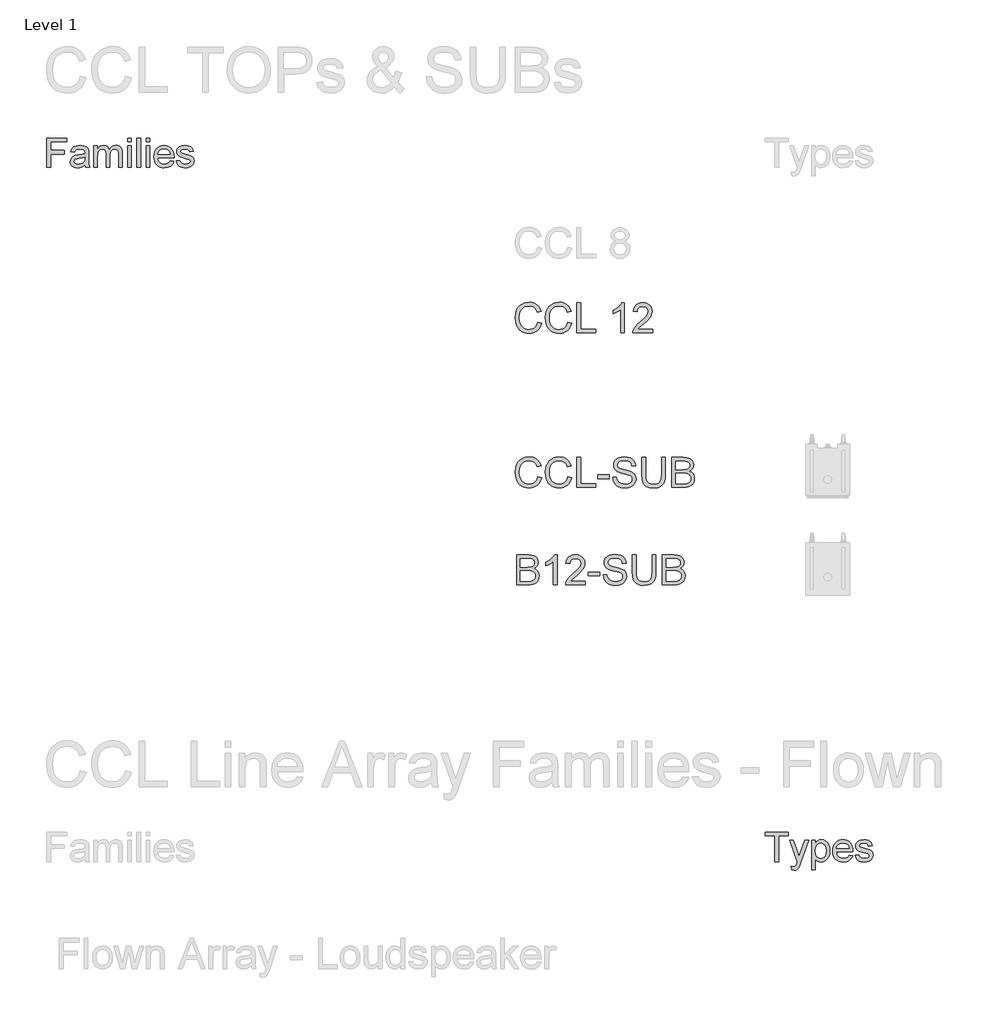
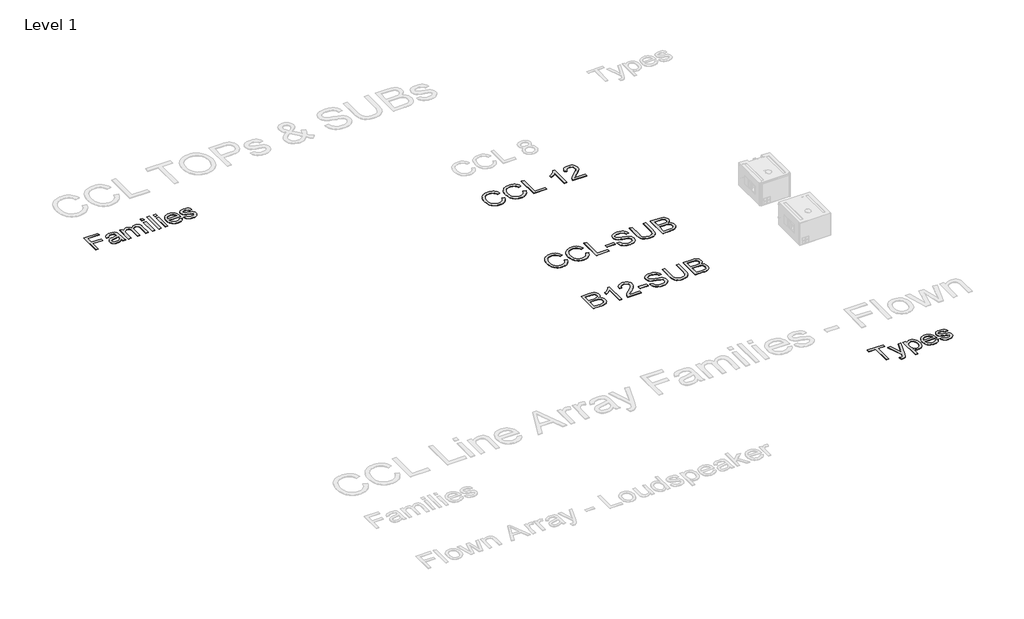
# One storey, part 22 of 31: 5 proxies.
"""IFC4 building model written with IfcOpenShell, lengths in millimetres."""

from ifc_helpers import new_model, si_unit, origin, origin_with_axes, place, context, project, spatial, polyline, outline, extrude, element, save

model = new_model("IFC4")

# Units and contexts
model_context = context("Model", 3, world=origin())
ifc_project = project(units=[si_unit("LENGTHUNIT", "METRE", prefix="MILLI")], contexts=[model_context])

# Site, building, storey
site = spatial("IfcSite", under=ifc_project)
building = spatial("IfcBuilding", under=site)
storey = spatial("IfcBuildingStorey", under=building, Name="Level 1", Elevation=0.0)

# Proxies
placement = place(None, origin())
element("IfcBuildingElementProxy", 1, Name="400mm Arial", ObjectType="400mm Arial", at=placement, inside=storey, context=model_context, shape_type="SweptSolid", body=[
    extrude(outline(polyline([(-21056.720891, 17351.3054836), (-21056.720891, 17743.0630593), (-20793.5087698, 17743.0630593), (-20793.5087698, 17694.0933624), (-21007.7511941, 17694.0933624), (-21007.7511941, 17577.7903321), (-20824.1148304, 17577.7903321), (-20824.1148304, 17528.8206351), (-21007.7511941, 17528.8206351), (-21007.7511941, 17351.3054836), (-21056.720891, 17351.3054836)])), origin_with_axes(), (0.0, 0.0, 1.0), 5.0),
    extrude(outline(polyline([(-20548.660285, 17388.0327563), (-20572.0571836, 17367.97144), (-20596.1475009, 17354.8443093), (-20621.4811893, 17347.5992809), (-20648.6082016, 17345.1842715), (-20670.4120309, 17346.6368638), (-20689.5318522, 17350.9946408), (-20705.9676654, 17358.2576024), (-20719.7194706, 17368.4257487), (-20730.5780466, 17380.8534831), (-20738.3341723, 17394.895209), (-20742.9878477, 17410.5509263), (-20744.5390729, 17427.8206351), (-20742.1957963, 17448.1210612), (-20735.1659668, 17466.5564305), (-20724.3223352, 17482.3376805), (-20710.5376524, 17494.6757487), (-20676.2493001, 17510.7439305), (-20633.879035, 17518.1085139), (-20583.8094327, 17525.855673), (-20548.9472168, 17534.9418472), (-20548.660285, 17545.8452563), (-20552.0317338, 17567.6998965), (-20562.1460804, 17581.9986654), (-20584.7658721, 17592.6151427), (-20616.2805501, 17596.1539684), (-20645.4519516, 17593.7987364), (-20665.8241107, 17586.7330404), (-20679.7163929, 17573.6656872), (-20689.4481638, 17553.3054836), (-20738.4178607, 17559.4266957), (-20729.9175056, 17586.2069987), (-20717.2327282, 17607.2486654), (-20699.1799346, 17623.3407582), (-20674.5755312, 17635.2723396), (-20644.4835568, 17642.660834), (-20609.9680501, 17645.1236654), (-20576.8632916, 17642.9477658), (-20550.6209857, 17636.4200669), (-20530.8346458, 17626.6046076), (-20517.097785, 17614.5654268), (-20507.9876997, 17599.6808387), (-20502.0816865, 17581.3291578), (-20499.690588, 17538.480673), (-20499.690588, 17477.5554836), (-20497.2038456, 17392.4801995), (-20487.4481638, 17351.3054836), (-20536.4178607, 17351.3054836), (-20544.2606638, 17368.3301048), (-20548.660285, 17388.0327563)]), holes=[polyline([(-20548.660285, 17485.9721502), (-20581.5618001, 17477.8185044), (-20627.6621789, 17470.9560518), (-20669.7933342, 17463.0176048), (-20680.7565208, 17457.5898112), (-20688.8743001, 17450.105673), (-20693.8956069, 17441.1390536), (-20695.5693759, 17431.2638169), (-20691.9229507, 17416.7020271), (-20680.9836751, 17404.7704457), (-20662.990659, 17396.8080877), (-20638.1830122, 17394.1539684), (-20611.8809289, 17397.0830641), (-20588.6394516, 17405.870351), (-20569.7975956, 17418.8181493), (-20556.6943759, 17434.228779), (-20550.8840066, 17450.105673), (-20548.9472168, 17472.103779), (-20548.660285, 17485.9721502)])]), origin_with_axes(), (0.0, 0.0, 1.0), 5.0),
    extrude(outline(polyline([(-20432.3572547, 17351.3054836), (-20432.3572547, 17639.0024533), (-20383.3875577, 17639.0024533), (-20383.3875577, 17591.6587033), (-20368.658391, 17613.405744), (-20349.720891, 17630.4423207), (-20327.2206543, 17641.4533292), (-20301.8032774, 17645.1236654), (-20274.5686657, 17641.3815963), (-20252.7379365, 17630.1553889), (-20236.4306448, 17612.1862838), (-20225.7663456, 17588.2155215), (-20207.9167954, 17613.1128344), (-20187.5565918, 17630.8966294), (-20164.6857348, 17641.5669064), (-20139.3042244, 17645.1236654), (-20119.7002057, 17643.6441732), (-20102.4932632, 17639.2056966), (-20087.683397, 17631.8082357), (-20075.2706069, 17621.4517904), (-20065.4581365, 17608.0168058), (-20058.4492291, 17591.3837269), (-20054.2438846, 17571.5525539), (-20052.8421032, 17548.5232866), (-20052.8421032, 17351.3054836), (-20101.8118001, 17351.3054836), (-20101.8118001, 17527.4816199), (-20106.3548872, 17568.369404), (-20112.7391202, 17579.6434334), (-20122.8056448, 17588.5024533), (-20135.7534431, 17594.2410896), (-20150.7814971, 17596.1539684), (-20177.3107348, 17591.2522165), (-20198.9382206, 17576.5469608), (-20207.3279874, 17565.2669537), (-20213.320678, 17551.03394), (-20218.1148304, 17513.7088927), (-20218.1148304, 17351.3054836), (-20267.0845274, 17351.3054836), (-20267.0845274, 17532.9333245), (-20269.9179791, 17560.6222449), (-20278.4183342, 17580.3727184), (-20293.3746552, 17592.2086559), (-20315.5760047, 17596.1539684), (-20334.4417717, 17593.5237601), (-20351.8250577, 17585.6331351), (-20366.1716486, 17572.6733813), (-20375.9273304, 17554.8357866), (-20381.5225009, 17530.0879173), (-20383.3875577, 17496.3973396), (-20383.3875577, 17351.3054836), (-20432.3572547, 17351.3054836)])), origin_with_axes(), (0.0, 0.0, 1.0), 5.0),
    extrude(outline(polyline([(-19979.3875577, 17351.3054836), (-19979.3875577, 17639.0024533), (-19930.4178607, 17639.0024533), (-19930.4178607, 17351.3054836), (-19979.3875577, 17351.3054836)])), origin_with_axes(), (0.0, 0.0, 1.0), 5.0),
    extrude(outline(polyline([(-19979.3875577, 17694.0933624), (-19979.3875577, 17743.0630593), (-19930.4178607, 17743.0630593), (-19930.4178607, 17694.0933624), (-19979.3875577, 17694.0933624)])), origin_with_axes(), (0.0, 0.0, 1.0), 5.0),
    extrude(outline(polyline([(-19856.9633153, 17351.3054836), (-19856.9633153, 17743.0630593), (-19807.9936183, 17743.0630593), (-19807.9936183, 17351.3054836), (-19856.9633153, 17351.3054836)])), origin_with_axes(), (0.0, 0.0, 1.0), 5.0),
    extrude(outline(polyline([(-19734.5390729, 17351.3054836), (-19734.5390729, 17639.0024533), (-19685.5693759, 17639.0024533), (-19685.5693759, 17351.3054836), (-19734.5390729, 17351.3054836)])), origin_with_axes(), (0.0, 0.0, 1.0), 5.0),
    extrude(outline(polyline([(-19734.5390729, 17694.0933624), (-19734.5390729, 17743.0630593), (-19685.5693759, 17743.0630593), (-19685.5693759, 17694.0933624), (-19734.5390729, 17694.0933624)])), origin_with_axes(), (0.0, 0.0, 1.0), 5.0),
    extrude(outline(polyline([(-19410.6886941, 17437.0024533), (-19362.6754365, 17430.8812411), (-19370.0370309, 17411.6508316), (-19379.975034, 17394.7039211), (-19392.4894457, 17380.0405096), (-19407.580266, 17367.6605972), (-19425.0920736, 17357.8272047), (-19444.8694469, 17350.8033529), (-19491.220891, 17345.1842715), (-19521.605775, 17347.6082475), (-19548.6789876, 17354.8801758), (-19572.4405288, 17367.0000563), (-19592.8903986, 17383.9678889), (-19609.3351784, 17405.3114317), (-19621.0814497, 17430.5584429), (-19628.1292125, 17459.7089223), (-19630.4784668, 17492.7628699), (-19628.1053015, 17526.937645), (-19620.9858058, 17557.0595082), (-19609.1199796, 17583.1284594), (-19592.5078229, 17605.1444987), (-19572.1117528, 17622.6353841), (-19548.8941865, 17635.1288737), (-19522.855124, 17642.6249675), (-19493.9945653, 17645.1236654), (-19466.0635461, 17642.6309452), (-19440.8045795, 17635.1527847), (-19418.2176654, 17622.6891839), (-19398.3028039, 17605.2401427), (-19382.0463231, 17583.2719253), (-19370.4345511, 17557.2507961), (-19363.4674879, 17527.1767549), (-19361.1451335, 17493.0498018), (-19361.4320653, 17479.8509381), (-19581.5087698, 17479.8509381), (-19578.6723292, 17460.3096858), (-19573.0323257, 17443.1953983), (-19564.5887592, 17428.5080759), (-19553.3416297, 17416.2477184), (-19524.9234242, 17399.6774059), (-19490.2644516, 17394.1539684), (-19464.2014782, 17396.7124438), (-19442.2511941, 17404.3878699), (-19424.4135994, 17417.6584665), (-19410.6886941, 17437.0024533)]), holes=[polyline([(-19581.5087698, 17528.8206351), (-19410.1148304, 17528.8206351), (-19416.7381732, 17554.6923207), (-19429.721838, 17573.199423), (-19443.076123, 17583.2420366), (-19458.2715539, 17590.4153321), (-19494.1858532, 17596.1539684), (-19527.1949677, 17591.5750148), (-19554.4893569, 17577.838154), (-19573.4627234, 17556.4258671), (-19581.5087698, 17528.8206351)])]), origin_with_axes(), (0.0, 0.0, 1.0), 5.0),
    extrude(outline(polyline([(-19330.5390729, 17437.0024533), (-19281.5693759, 17443.1236654), (-19273.8461278, 17422.1776427), (-19258.9017622, 17406.7789684), (-19236.6406354, 17397.3102184), (-19206.9671032, 17394.1539684), (-19177.6522357, 17397.0471976), (-19157.0409668, 17405.7268851), (-19144.8463645, 17418.3040631), (-19140.7814971, 17432.8897639), (-19144.8702755, 17445.371298), (-19157.1366107, 17454.8878699), (-19207.5409668, 17468.8518851), (-19281.2824441, 17492.8106919), (-19299.9449677, 17504.8498728), (-19313.4666297, 17520.7865442), (-19321.680053, 17539.6044893), (-19324.4178607, 17560.2874911), (-19322.2180501, 17579.2608576), (-19315.6186183, 17596.775654), (-19305.2173399, 17612.1384618), (-19291.6119895, 17624.6558624), (-19260.4798872, 17639.1459192), (-19218.3487319, 17645.1236654), (-19186.4753891, 17642.7206114), (-19158.7625577, 17635.5114495), (-19136.4775198, 17624.2015536), (-19120.8875577, 17609.496298), (-19110.5580122, 17590.3077326), (-19104.0542244, 17565.5479078), (-19153.0239213, 17559.4266957), (-19159.2049109, 17574.8373254), (-19171.4353797, 17586.4461086), (-19189.8348825, 17593.7270035), (-19214.5229744, 17596.1539684), (-19242.6422925, 17593.8346029), (-19261.3885047, 17586.8765063), (-19271.933249, 17576.8338927), (-19275.4481638, 17565.260976), (-19269.6138835, 17551.010029), (-19251.345891, 17540.2022639), (-19209.1669138, 17529.7770745), (-19137.2904933, 17506.7268851), (-19118.3051713, 17495.7039211), (-19103.9107585, 17480.6160896), (-19094.8365397, 17461.4155688), (-19091.8118001, 17438.0545366), (-19095.3625814, 17413.9044419), (-19106.0149251, 17391.1890063), (-19123.3623446, 17371.6895982), (-19146.9983532, 17357.1875858), (-19175.5480691, 17348.1851), (-19207.6366107, 17345.1842715), (-19233.9924938, 17346.630886), (-19257.0127944, 17350.9707298), (-19276.6975127, 17358.2038027), (-19293.0466486, 17368.3301048), (-19306.4009336, 17381.3018141), (-19317.1010994, 17397.0711086), (-19325.1471458, 17415.6379883), (-19330.5390729, 17437.0024533)])), origin_with_axes(), (0.0, 0.0, 1.0), 5.0),
])
element("IfcBuildingElementProxy", 2, Name="400mm Arial", ObjectType="400mm Arial", at=placement, inside=storey, context=model_context, shape_type="SweptSolid", body=[
    extrude(outline(polyline([(-14508.9974838, 15286.7361061), (-14458.7693287, 15273.7866599), (-14468.708274, 15242.5504128), (-14481.9458944, 15215.2566344), (-14498.4821901, 15191.9053248), (-14518.317161, 15172.4964839), (-14541.0032174, 15157.2385781), (-14566.0927694, 15146.340074), (-14593.5858172, 15139.8009715), (-14623.4823607, 15137.6212707), (-14654.1116025, 15139.2706083), (-14681.742606, 15144.2186212), (-14706.3753713, 15152.4653092), (-14728.0098983, 15164.0106725), (-14746.9435583, 15178.6830327), (-14763.4737226, 15196.3107117), (-14777.6003912, 15216.8937093), (-14789.3235641, 15240.4320256), (-14805.1057017, 15292.3033869), (-14810.3664142, 15347.8535682), (-14804.4189887, 15406.4449073), (-14796.9847067, 15432.7423386), (-14786.5767119, 15457.0409444), (-14773.4279962, 15478.9391202), (-14757.7715517, 15498.0352614), (-14739.6073781, 15514.3293681), (-14718.9354757, 15527.8214403), (-14696.4578858, 15538.4011133), (-14672.8766499, 15545.9580226), (-14622.4032402, 15552.0035501), (-14593.674722, 15550.0476441), (-14567.3313055, 15544.1799263), (-14543.3729906, 15534.4003966), (-14521.7997772, 15520.709055), (-14502.9672848, 15503.4676522), (-14487.2311324, 15483.0379387), (-14474.5913202, 15459.4199146), (-14465.0478481, 15432.6135799), (-14515.2760032, 15420.6451523), (-14532.6890843, 15457.2739363), (-14556.4787866, 15482.4002766), (-14586.9394158, 15496.9316154), (-14624.3652775, 15501.775395), (-14667.5055728, 15496.4043179), (-14686.1878468, 15489.6904715), (-14702.9448716, 15480.2910865), (-14729.8370455, 15455.127958), (-14747.3359657, 15422.6071896), (-14756.9376858, 15385.8435156), (-14760.1382592, 15347.9516701), (-14756.3490746, 15301.5494878), (-14744.981521, 15261.4258248), (-14725.6064026, 15229.1135229), (-14697.7945237, 15206.1454237), (-14664.4521522, 15192.4234253), (-14628.4855558, 15187.8494258), (-14606.6486937, 15189.4067929), (-14586.5592711, 15194.0788942), (-14568.217288, 15201.8657298), (-14551.6227443, 15212.7672996), (-14537.1680476, 15226.7345527), (-14525.2456052, 15243.7184381), (-14515.8554173, 15263.7189559), (-14508.9974838, 15286.7361061)])), origin_with_axes(), (0.0, 0.0, 1.0), 5.0),
    extrude(outline(polyline([(-14107.1722432, 15286.7361061), (-14056.9440881, 15273.7866599), (-14066.8830334, 15242.5504128), (-14080.1206538, 15215.2566344), (-14096.6569495, 15191.9053248), (-14116.4919204, 15172.4964839), (-14139.1779768, 15157.2385781), (-14164.2675288, 15146.340074), (-14191.7605766, 15139.8009715), (-14221.6571201, 15137.6212707), (-14252.2863619, 15139.2706083), (-14279.9173654, 15144.2186212), (-14304.5501307, 15152.4653092), (-14326.1846577, 15164.0106725), (-14345.1183177, 15178.6830327), (-14361.648482, 15196.3107117), (-14375.7751506, 15216.8937093), (-14387.4983235, 15240.4320256), (-14403.2804611, 15292.3033869), (-14408.5411736, 15347.8535682), (-14402.5937481, 15406.4449073), (-14395.1594661, 15432.7423386), (-14384.7514713, 15457.0409444), (-14371.6027556, 15478.9391202), (-14355.9463111, 15498.0352614), (-14337.7821376, 15514.3293681), (-14317.1102351, 15527.8214403), (-14294.6326452, 15538.4011133), (-14271.0514093, 15545.9580226), (-14220.5779996, 15552.0035501), (-14191.8494814, 15550.0476441), (-14165.5060649, 15544.1799263), (-14141.54775, 15534.4003966), (-14119.9745366, 15520.709055), (-14101.1420442, 15503.4676522), (-14085.4058918, 15483.0379387), (-14072.7660796, 15459.4199146), (-14063.2226075, 15432.6135799), (-14113.4507626, 15420.6451523), (-14130.8638437, 15457.2739363), (-14154.653546, 15482.4002766), (-14185.1141752, 15496.9316154), (-14222.5400369, 15501.775395), (-14265.6803322, 15496.4043179), (-14284.3626062, 15489.6904715), (-14301.119631, 15480.2910865), (-14328.0118049, 15455.127958), (-14345.5107251, 15422.6071896), (-14355.1124452, 15385.8435156), (-14358.3130186, 15347.9516701), (-14354.523834, 15301.5494878), (-14343.1562804, 15261.4258248), (-14323.781162, 15229.1135229), (-14295.9692831, 15206.1454237), (-14262.6269116, 15192.4234253), (-14226.6603152, 15187.8494258), (-14204.8234531, 15189.4067929), (-14184.7340305, 15194.0788942), (-14166.3920474, 15201.8657298), (-14149.7975037, 15212.7672996), (-14135.342807, 15226.7345527), (-14123.4203646, 15243.7184381), (-14114.0301767, 15263.7189559), (-14107.1722432, 15286.7361061)])), origin_with_axes(), (0.0, 0.0, 1.0), 5.0),
    extrude(outline(polyline([(-13987.8803749, 15143.8997901), (-13987.8803749, 15545.7250307), (-13937.6522198, 15545.7250307), (-13937.6522198, 15194.1279452), (-13736.7395995, 15194.1279452), (-13736.7395995, 15143.8997901), (-13987.8803749, 15143.8997901)])), origin_with_axes(), (0.0, 0.0, 1.0), 5.0),
    extrude(outline(polyline([(-13353.7499171, 15143.8997901), (-13403.9780721, 15143.8997901), (-13403.9780721, 15457.0409444), (-13424.9473459, 15440.0815844), (-13451.5574769, 15423.1467499), (-13504.4343823, 15397.7874177), (-13504.4343823, 15445.2687205), (-13464.9851697, 15466.7285036), (-13430.8089323, 15492.2595141), (-13403.8677075, 15519.4092053), (-13386.1235326, 15545.7250307), (-13353.7499171, 15545.7250307), (-13353.7499171, 15143.8997901)])), origin_with_axes(), (0.0, 0.0, 1.0), 5.0),
    extrude(outline(polyline([(-12977.038754, 15194.1279452), (-12977.038754, 15143.8997901), (-13240.7365682, 15143.8997901), (-13239.6329222, 15161.5826513), (-13235.3409656, 15178.5297486), (-13222.9556051, 15205.5936007), (-13204.8312854, 15231.8481124), (-13178.6135619, 15259.3288974), (-13141.9479897, 15290.0715695), (-13087.7467091, 15338.2150599), (-13055.2259407, 15373.7524607), (-13038.9655565, 15402.5944091), (-13033.5454285, 15430.6515426), (-13038.6589882, 15455.8024083), (-13053.9996674, 15476.7103684), (-13077.5809033, 15490.8002488), (-13107.4161331, 15495.4968756), (-13138.7474164, 15490.9106134), (-13163.0889417, 15477.1518268), (-13178.7975029, 15455.2996363), (-13184.2298937, 15426.4331624), (-13234.4580488, 15432.7116818), (-13230.138501, 15458.6412311), (-13222.2811547, 15481.2966306), (-13210.8860099, 15500.6778804), (-13195.9530666, 15516.7849804), (-13177.8256813, 15529.4462524), (-13156.8472105, 15538.4900181), (-13133.0176543, 15543.9162775), (-13106.3370126, 15545.7250307), (-13079.4172476, 15543.7139425), (-13055.4589326, 15537.6806777), (-13034.4620678, 15527.6252365), (-13016.426653, 15513.5476188), (-13001.9412994, 15496.490157), (-12991.5946183, 15477.4951833), (-12985.3866096, 15456.5626978), (-12983.3172734, 15433.6927004), (-12985.5490908, 15409.6700061), (-12992.2445431, 15386.0642448), (-13004.1271316, 15362.0538132), (-13021.9203574, 15336.8171084), (-13050.2840592, 15306.687573), (-13093.8780757, 15267.9986498), (-13151.6600744, 15219.6834811), (-13174.3216053, 15194.1279452), (-12977.038754, 15194.1279452)])), origin_with_axes(), (0.0, 0.0, 1.0), 5.0),
])
element("IfcBuildingElementProxy", 3, Name="400mm Arial", ObjectType="400mm Arial", at=placement, inside=storey, context=model_context, shape_type="SweptSolid", body=[
    extrude(outline(polyline([(-14508.9974838, 13223.865622), (-14458.7693287, 13210.9161757), (-14468.708274, 13179.6799287), (-14481.9458944, 13152.3861503), (-14498.4821901, 13129.0348407), (-14518.317161, 13109.6259997), (-14541.0032174, 13094.368094), (-14566.0927694, 13083.4695899), (-14593.5858172, 13076.9304874), (-14623.4823607, 13074.7507866), (-14654.1116025, 13076.4001242), (-14681.742606, 13081.348137), (-14706.3753713, 13089.5948251), (-14728.0098983, 13101.1401884), (-14746.9435583, 13115.8125486), (-14763.4737226, 13133.4402275), (-14777.6003912, 13154.0232252), (-14789.3235641, 13177.5615415), (-14805.1057017, 13229.4329028), (-14810.3664142, 13284.9830841), (-14804.4189887, 13343.5744232), (-14796.9847067, 13369.8718545), (-14786.5767119, 13394.1704603), (-14773.4279962, 13416.068636), (-14757.7715517, 13435.1647773), (-14739.6073781, 13451.458884), (-14718.9354757, 13464.9509561), (-14696.4578858, 13475.5306292), (-14672.8766499, 13483.0875385), (-14622.4032402, 13489.133066), (-14593.674722, 13487.17716), (-14567.3313055, 13481.3094422), (-14543.3729906, 13471.5299125), (-14521.7997772, 13457.8385709), (-14502.9672848, 13440.5971681), (-14487.2311324, 13420.1674546), (-14474.5913202, 13396.5494305), (-14465.0478481, 13369.7430958), (-14515.2760032, 13357.7746682), (-14532.6890843, 13394.4034522), (-14556.4787866, 13419.5297925), (-14586.9394158, 13434.0611313), (-14624.3652775, 13438.9049109), (-14667.5055728, 13433.5338337), (-14686.1878468, 13426.8199873), (-14702.9448716, 13417.4206024), (-14729.8370455, 13392.2574739), (-14747.3359657, 13359.7367055), (-14756.9376858, 13322.9730315), (-14760.1382592, 13285.081186), (-14756.3490746, 13238.6790036), (-14744.981521, 13198.5553407), (-14725.6064026, 13166.2430388), (-14697.7945237, 13143.2749396), (-14664.4521522, 13129.5529411), (-14628.4855558, 13124.9789417), (-14606.6486937, 13126.5363088), (-14586.5592711, 13131.2084101), (-14568.217288, 13138.9952457), (-14551.6227443, 13149.8968155), (-14537.1680476, 13163.8640685), (-14525.2456052, 13180.847954), (-14515.8554173, 13200.8484718), (-14508.9974838, 13223.865622)])), origin_with_axes(), (0.0, 0.0, 1.0), 5.0),
    extrude(outline(polyline([(-14107.1722432, 13223.865622), (-14056.9440881, 13210.9161757), (-14066.8830334, 13179.6799287), (-14080.1206538, 13152.3861503), (-14096.6569495, 13129.0348407), (-14116.4919204, 13109.6259997), (-14139.1779768, 13094.368094), (-14164.2675288, 13083.4695899), (-14191.7605766, 13076.9304874), (-14221.6571201, 13074.7507866), (-14252.2863619, 13076.4001242), (-14279.9173654, 13081.348137), (-14304.5501307, 13089.5948251), (-14326.1846577, 13101.1401884), (-14345.1183177, 13115.8125486), (-14361.648482, 13133.4402275), (-14375.7751506, 13154.0232252), (-14387.4983235, 13177.5615415), (-14403.2804611, 13229.4329028), (-14408.5411736, 13284.9830841), (-14402.5937481, 13343.5744232), (-14395.1594661, 13369.8718545), (-14384.7514713, 13394.1704603), (-14371.6027556, 13416.068636), (-14355.9463111, 13435.1647773), (-14337.7821376, 13451.458884), (-14317.1102351, 13464.9509561), (-14294.6326452, 13475.5306292), (-14271.0514093, 13483.0875385), (-14220.5779996, 13489.133066), (-14191.8494814, 13487.17716), (-14165.5060649, 13481.3094422), (-14141.54775, 13471.5299125), (-14119.9745366, 13457.8385709), (-14101.1420442, 13440.5971681), (-14085.4058918, 13420.1674546), (-14072.7660796, 13396.5494305), (-14063.2226075, 13369.7430958), (-14113.4507626, 13357.7746682), (-14130.8638437, 13394.4034522), (-14154.653546, 13419.5297925), (-14185.1141752, 13434.0611313), (-14222.5400369, 13438.9049109), (-14265.6803322, 13433.5338337), (-14284.3626062, 13426.8199873), (-14301.119631, 13417.4206024), (-14328.0118049, 13392.2574739), (-14345.5107251, 13359.7367055), (-14355.1124452, 13322.9730315), (-14358.3130186, 13285.081186), (-14354.523834, 13238.6790036), (-14343.1562804, 13198.5553407), (-14323.781162, 13166.2430388), (-14295.9692831, 13143.2749396), (-14262.6269116, 13129.5529411), (-14226.6603152, 13124.9789417), (-14204.8234531, 13126.5363088), (-14184.7340305, 13131.2084101), (-14166.3920474, 13138.9952457), (-14149.7975037, 13149.8968155), (-14135.342807, 13163.8640685), (-14123.4203646, 13180.847954), (-14114.0301767, 13200.8484718), (-14107.1722432, 13223.865622)])), origin_with_axes(), (0.0, 0.0, 1.0), 5.0),
    extrude(outline(polyline([(-13987.8803749, 13081.029306), (-13987.8803749, 13482.8545466), (-13937.6522198, 13482.8545466), (-13937.6522198, 13131.257461), (-13736.7395995, 13131.257461), (-13736.7395995, 13081.029306), (-13987.8803749, 13081.029306)])), origin_with_axes(), (0.0, 0.0, 1.0), 5.0),
    extrude(outline(polyline([(-13711.625522, 13200.3211743), (-13711.625522, 13250.5493293), (-13554.6625374, 13250.5493293), (-13554.6625374, 13200.3211743), (-13711.625522, 13200.3211743)])), origin_with_axes(), (0.0, 0.0, 1.0), 5.0),
    extrude(outline(polyline([(-13510.7129017, 13219.1567324), (-13460.4847466, 13219.1567324), (-13454.721262, 13191.2835399), (-13444.2979388, 13168.8795264), (-13428.0375546, 13151.0985633), (-13404.7628871, 13137.094522), (-13376.3133461, 13128.0078368), (-13344.5283417, 13124.9789417), (-13316.5447846, 13127.2720728), (-13292.0438437, 13134.1514661), (-13272.1904787, 13145.0407731), (-13258.1496493, 13159.3636455), (-13249.798728, 13175.8079707), (-13247.0150875, 13193.0616362), (-13249.0997522, 13209.8738434), (-13255.3537461, 13224.4051822), (-13268.0579377, 13236.8028055), (-13289.4931952, 13247.2138659), (-13362.6281359, 13266.3927806), (-13410.6367363, 13279.0847094), (-13441.3548829, 13291.1635016), (-13466.3585958, 13308.0615479), (-13484.0782452, 13328.5403123), (-13494.6364585, 13352.1583364), (-13498.1558629, 13378.4741618), (-13493.8025926, 13407.8924587), (-13480.7427818, 13435.3241928), (-13459.319787, 13458.5743349), (-13429.8769646, 13475.4478557), (-13394.5357676, 13485.7117634), (-13355.4176488, 13489.133066), (-13313.0376429, 13485.5523479), (-13275.9551378, 13474.8101936), (-13245.4945086, 13457.1273324), (-13222.9801305, 13432.7244934), (-13208.7308346, 13403.1222555), (-13203.0654518, 13369.8411976), (-13253.2936069, 13369.8411976), (-13262.5151823, 13399.8113175), (-13270.8783663, 13411.6693805), (-13281.7431479, 13421.4427788), (-13311.7868442, 13434.5393779), (-13353.4556115, 13438.9049109), (-13396.1053974, 13434.5884288), (-13412.4087012, 13429.1928262), (-13425.3642788, 13421.6389826), (-13442.2868506, 13402.5826952), (-13447.9277078, 13379.9456898), (-13443.9300568, 13360.6441478), (-13431.9371038, 13345.1195276), (-13403.5856647, 13331.2381136), (-13349.9239443, 13317.0623941), (-13294.5454413, 13303.5979131), (-13261.0436543, 13291.8502147), (-13232.4101723, 13273.6277932), (-13212.43418, 13251.1379405), (-13200.6987443, 13224.6259114), (-13196.7869325, 13194.3369605), (-13201.2873555, 13163.3735592), (-13214.7886248, 13134.2495679), (-13236.7389171, 13109.1845413), (-13266.5864097, 13090.3980341), (-13302.4794297, 13078.6625985), (-13342.5663044, 13074.7507866), (-13391.7766526, 13078.9691668), (-13432.2804603, 13091.6243074), (-13464.5437113, 13112.7652594), (-13489.0323894, 13142.4410737), (-13504.7532134, 13178.5916111), (-13510.7129017, 13219.1567324)])), origin_with_axes(), (0.0, 0.0, 1.0), 5.0),
    extrude(outline(polyline([(-12857.7468857, 13482.8545466), (-12807.5187306, 13482.8545466), (-12807.5187306, 13251.0398387), (-12810.9277705, 13196.7527189), (-12821.1548899, 13154.9490615), (-12829.3402643, 13137.9958329), (-12840.2602282, 13122.6980733), (-12870.3039245, 13097.068961), (-12889.446051, 13087.3047597), (-12911.3595551, 13080.3303302), (-12963.5006966, 13074.7507866), (-13014.5014039, 13079.6068289), (-13055.2749916, 13094.1749559), (-13071.8296814, 13104.9753582), (-13085.8337227, 13117.9523956), (-13097.2871155, 13133.1060681), (-13106.1898598, 13150.4363757), (-13117.6309898, 13194.0058667), (-13121.4446998, 13251.0398387), (-13121.4446998, 13482.8545466), (-13071.2165448, 13482.8545466), (-13071.2165448, 13252.8056722), (-13068.7394727, 13207.6665514), (-13061.3082564, 13176.2371663), (-13047.8437753, 13154.4708149), (-13027.2669091, 13138.3207954), (-13000.4360489, 13128.3144051), (-12968.2095861, 13124.9789417), (-12940.526466, 13126.6282793), (-12917.1230397, 13131.5762921), (-12897.9993073, 13139.8229802), (-12883.1552688, 13151.3683434), (-12872.0391012, 13167.6042022), (-12864.0989815, 13189.9223765), (-12859.3349097, 13218.3228666), (-12857.7468857, 13252.8056722), (-12857.7468857, 13482.8545466)])), origin_with_axes(), (0.0, 0.0, 1.0), 5.0),
    extrude(outline(polyline([(-12719.6194593, 13081.029306), (-12719.6194593, 13482.8545466), (-12566.2862437, 13482.8545466), (-12524.1147043, 13479.8992279), (-12491.1892657, 13471.0332718), (-12465.9525608, 13456.0359491), (-12446.8472226, 13434.6865307), (-12434.8174813, 13409.5724531), (-12430.8075676, 13383.2811532), (-12434.1798192, 13359.0867807), (-12444.2965741, 13336.3394106), (-12461.2314086, 13316.4369947), (-12485.0578991, 13300.7774844), (-12456.5960954, 13285.9150518), (-12435.565508, 13263.3025718), (-12422.5792736, 13234.436098), (-12418.2505288, 13200.8116836), (-12421.2058475, 13172.7913383), (-12430.0718036, 13146.8066067), (-12443.3032927, 13124.7091615), (-12459.3552104, 13108.3506755), (-12479.0123717, 13096.5048752), (-12503.0595914, 13087.9454875), (-12532.2816846, 13082.7583513), (-12567.463466, 13081.029306), (-12719.6194593, 13081.029306)]), holes=[polyline([(-12669.3913042, 13131.257461), (-12566.3843455, 13131.257461), (-12529.1056367, 13133.2194984), (-12497.565887, 13144.1578563), (-12485.9898668, 13153.5878982), (-12476.6701896, 13166.4760307), (-12470.5265603, 13182.2459056), (-12468.4786839, 13200.3211743), (-12470.8821796, 13221.3149735), (-12478.0926667, 13239.3657167), (-12490.6864937, 13253.4801226), (-12509.2400089, 13262.6649097), (-12535.5190461, 13267.7048931), (-12571.2894388, 13269.3848875), (-12669.3913042, 13269.3848875), (-12669.3913042, 13131.257461)]), polyline([(-12669.3913042, 13319.6130426), (-12577.66606, 13319.6130426), (-12524.1024415, 13323.9295247), (-12505.3527225, 13331.3730037), (-12491.8759788, 13342.5198281), (-12483.7457867, 13357.1983197), (-12481.0357226, 13375.2368002), (-12483.5618457, 13392.7479832), (-12491.1402148, 13408.0028233), (-12503.4274734, 13419.9099372), (-12520.0802651, 13427.3779417), (-12545.635801, 13431.314279), (-12584.6312925, 13432.6263915), (-12669.3913042, 13432.6263915), (-12669.3913042, 13319.6130426)])]), origin_with_axes(), (0.0, 0.0, 1.0), 5.0),
])
element("IfcBuildingElementProxy", 4, Name="400mm Arial", ObjectType="400mm Arial", at=placement, inside=storey, context=model_context, shape_type="SweptSolid", body=[
    extrude(outline(polyline([(-11345.9583027, 8089.9648601), (-11345.9583027, 8432.7527389), (-11474.5037572, 8432.7527389), (-11474.5037572, 8481.7224359), (-11168.4431512, 8481.7224359), (-11168.4431512, 8432.7527389), (-11296.9886057, 8432.7527389), (-11296.9886057, 8089.9648601), (-11345.9583027, 8089.9648601)])), origin_with_axes(), (0.0, 0.0, 1.0), 5.0),
    extrude(outline(polyline([(-11119.4734542, 7979.783042), (-11125.5946663, 8026.9355041), (-11100.7272421, 8022.6315268), (-11087.6479334, 8023.9824975), (-11077.4857648, 8028.0354094), (-11063.2348179, 8043.0993298), (-11049.8446663, 8079.157095), (-11046.0189088, 8091.0169435), (-11150.0795148, 8377.6618298), (-11098.5274315, 8377.6618298), (-11043.2452345, 8217.8408071), (-11024.0208027, 8153.9506556), (-11004.7963709, 8210.4762238), (-10948.0795148, 8377.6618298), (-10896.9100072, 8377.6618298), (-10997.0492118, 8083.0784965), (-11023.0643633, 8019.188345), (-11036.3827819, 7998.7922749), (-11051.4706133, 7984.6608829), (-11068.9734542, 7976.4115931), (-11089.5369012, 7973.6618298), (-11119.4734542, 7979.783042)])), origin_with_axes(), (0.0, 0.0, 1.0), 5.0),
    extrude(outline(polyline([(-10856.261333, 7979.783042), (-10856.261333, 8377.6618298), (-10807.291636, 8377.6618298), (-10807.291636, 8329.6485723), (-10791.3190982, 8353.3324028), (-10773.4336815, 8370.2494245), (-10752.5833027, 8380.3996376), (-10727.7158785, 8383.783042), (-10694.5991644, 8379.048667), (-10665.6429618, 8364.845542), (-10642.0667307, 8342.0344624), (-10625.0899315, 8311.4762238), (-10614.832119, 8275.3945476), (-10611.4128482, 8236.0131556), (-10615.2744722, 8194.1330656), (-10626.8593444, 8156.6765079), (-10645.7968444, 8125.5444056), (-10671.7163519, 8102.6376821), (-10701.9039703, 8088.5421565), (-10733.6458027, 8083.843648), (-10756.1579949, 8086.9879425), (-10776.2551777, 8096.4208261), (-10793.4591313, 8110.6598175), (-10807.291636, 8128.2224359), (-10807.291636, 7979.783042), (-10856.261333, 7979.783042)]), holes=[polyline([(-10807.291636, 8231.5178904), (-10801.9953529, 8187.6173223), (-10795.374999, 8170.616612), (-10786.1065035, 8156.9156177), (-10762.6617828, 8138.8389132), (-10749.2447314, 8134.319737), (-10734.697886, 8132.813345), (-10719.9418195, 8134.3735368), (-10706.2796805, 8139.054112), (-10682.2371853, 8157.7764132), (-10672.6757802, 8171.9735604), (-10665.8462052, 8189.601934), (-10660.3825451, 8235.1523601), (-10665.7146947, 8278.8138185), (-10672.3798818, 8295.9460391), (-10681.7111436, 8309.9459208), (-10705.1199978, 8328.5964889), (-10718.3846166, 8333.259131), (-10732.6893633, 8334.813345), (-10746.9492769, 8333.1604982), (-10760.3663283, 8328.2019577), (-10784.6718444, 8308.3677958), (-10794.5680032, 8293.6475957), (-10801.6366881, 8275.9325448), (-10805.8778991, 8255.2226431), (-10807.291636, 8231.5178904)])]), origin_with_axes(), (0.0, 0.0, 1.0), 5.0),
    extrude(outline(polyline([(-10354.8958027, 8175.6618298), (-10306.8825451, 8169.5406177), (-10314.2441396, 8150.3102082), (-10324.1821427, 8133.3632976), (-10336.6965544, 8118.6998862), (-10351.7873747, 8106.3199738), (-10369.2991822, 8096.4865813), (-10389.0765555, 8089.4627295), (-10435.4279997, 8083.843648), (-10465.8128837, 8086.2676241), (-10492.8860963, 8093.5395524), (-10516.6476375, 8105.6594328), (-10537.0975072, 8122.6272654), (-10553.5422871, 8143.9708083), (-10565.2885584, 8169.2178194), (-10572.3363212, 8198.3682988), (-10574.6855754, 8231.4222465), (-10572.3124102, 8265.5970216), (-10565.1929144, 8295.7188848), (-10553.3270882, 8321.787836), (-10536.7149315, 8343.8038753), (-10516.3188614, 8361.2947607), (-10493.1012951, 8373.7882503), (-10467.0622326, 8381.284344), (-10438.2016739, 8383.783042), (-10410.2706547, 8381.2903218), (-10385.0116881, 8373.8121613), (-10362.4247741, 8361.3485604), (-10342.5099125, 8343.8995192), (-10326.2534317, 8321.9313019), (-10314.6416597, 8295.9101726), (-10307.6745965, 8265.8361315), (-10305.3522421, 8231.7091783), (-10305.6391739, 8218.5103147), (-10525.7158785, 8218.5103147), (-10522.8794379, 8198.9690623), (-10517.2394343, 8181.8547749), (-10508.7958678, 8167.1674525), (-10497.5487383, 8154.907095), (-10469.1305328, 8138.3367825), (-10434.4715603, 8132.813345), (-10408.4085868, 8135.3718204), (-10386.4583027, 8143.0472465), (-10368.620708, 8156.3178431), (-10354.8958027, 8175.6618298)]), holes=[polyline([(-10525.7158785, 8267.4800117), (-10354.3219391, 8267.4800117), (-10360.9452819, 8293.3516973), (-10373.9289466, 8311.8587995), (-10387.2832317, 8321.9014132), (-10402.4786625, 8329.0747086), (-10438.3929618, 8334.813345), (-10471.4020764, 8330.2343914), (-10498.6964656, 8316.4975306), (-10517.6698321, 8295.0852437), (-10525.7158785, 8267.4800117)])]), origin_with_axes(), (0.0, 0.0, 1.0), 5.0),
    extrude(outline(polyline([(-10274.7461815, 8175.6618298), (-10225.7764845, 8181.783042), (-10218.0532364, 8160.8370192), (-10203.1088709, 8145.438345), (-10180.847744, 8135.969595), (-10151.1742118, 8132.813345), (-10121.8593444, 8135.7065742), (-10101.2480754, 8144.3862617), (-10089.0534732, 8156.9634397), (-10084.9886057, 8171.5491404), (-10089.0773841, 8184.0306745), (-10101.3437194, 8193.5472465), (-10151.7480754, 8207.5112617), (-10225.4895527, 8231.4700685), (-10244.1520764, 8243.5092493), (-10257.6737383, 8259.4459208), (-10265.8871616, 8278.2638658), (-10268.6249694, 8298.9468677), (-10266.4251588, 8317.9202342), (-10259.8257269, 8335.4350306), (-10249.4244485, 8350.7978384), (-10235.8190982, 8363.3152389), (-10204.6869959, 8377.8052958), (-10162.5558406, 8383.783042), (-10130.6824978, 8381.379988), (-10102.9696663, 8374.1708261), (-10080.6846285, 8362.8609302), (-10065.0946663, 8348.1556745), (-10054.7651209, 8328.9671092), (-10048.261333, 8304.2072844), (-10097.23103, 8298.0860723), (-10103.4120196, 8313.496702), (-10115.6424883, 8325.1054851), (-10134.0419911, 8332.38638), (-10158.730083, 8334.813345), (-10186.8494012, 8332.4939795), (-10205.5956133, 8325.5358829), (-10216.1403576, 8315.4932692), (-10219.6552724, 8303.9203526), (-10213.8209921, 8289.6694056), (-10195.5529997, 8278.8616404), (-10153.3740224, 8268.4364511), (-10081.4976019, 8245.3862617), (-10062.51228, 8234.3632976), (-10048.1178671, 8219.2754662), (-10039.0436483, 8200.0749454), (-10036.0189088, 8176.7139132), (-10039.56969, 8152.5638185), (-10050.2220338, 8129.8483829), (-10067.5694533, 8110.3489747), (-10091.2054618, 8095.8469624), (-10119.7551777, 8086.8444766), (-10151.8437194, 8083.843648), (-10178.1996024, 8085.2902626), (-10201.2199031, 8089.6301064), (-10220.9046214, 8096.8631793), (-10237.2537572, 8106.9894814), (-10250.6080423, 8119.9611906), (-10261.308208, 8135.7304851), (-10269.3542544, 8154.2973649), (-10274.7461815, 8175.6618298)])), origin_with_axes(), (0.0, 0.0, 1.0), 5.0),
])
element("IfcBuildingElementProxy", 5, Name="400mm Arial", ObjectType="400mm Arial", at=placement, inside=storey, context=model_context, shape_type="SweptSolid", body=[
    extrude(outline(polyline([(-14791.5308561, 11781.029306), (-14791.5308561, 12182.8545466), (-14638.1976405, 12182.8545466), (-14596.0261011, 12179.8992279), (-14563.1006625, 12171.0332718), (-14537.8639577, 12156.0359491), (-14518.7586194, 12134.6865307), (-14506.7288782, 12109.5724531), (-14502.7189644, 12083.2811532), (-14506.091216, 12059.0867807), (-14516.2079709, 12036.3394106), (-14533.1428054, 12016.4369947), (-14556.969296, 12000.7774844), (-14528.5074923, 11985.9150518), (-14507.4769049, 11963.3025718), (-14494.4906704, 11934.436098), (-14490.1619256, 11900.8116836), (-14493.1172443, 11872.7913383), (-14501.9832004, 11846.8066067), (-14515.2146895, 11824.7091615), (-14531.2666072, 11808.3506755), (-14550.9237685, 11796.5048752), (-14574.9709883, 11787.9454875), (-14604.1930814, 11782.7583513), (-14639.3748629, 11781.029306), (-14791.5308561, 11781.029306)]), holes=[polyline([(-14741.302701, 12019.6130426), (-14649.5774569, 12019.6130426), (-14596.0138384, 12023.9295247), (-14577.2641194, 12031.3730037), (-14563.7873756, 12042.5198281), (-14555.6571835, 12057.1983197), (-14552.9471195, 12075.2368002), (-14555.4732425, 12092.7479832), (-14563.0516116, 12108.0028233), (-14575.3388703, 12119.9099372), (-14591.9916619, 12127.3779417), (-14617.5471978, 12131.314279), (-14656.5426893, 12132.6263915), (-14741.302701, 12132.6263915), (-14741.302701, 12019.6130426)]), polyline([(-14741.302701, 11831.257461), (-14638.2957424, 11831.257461), (-14601.0170335, 11833.2194984), (-14569.4772838, 11844.1578563), (-14557.9012637, 11853.5878982), (-14548.5815865, 11866.4760307), (-14542.4379572, 11882.2459056), (-14540.3900807, 11900.3211743), (-14542.7935764, 11921.3149735), (-14550.0040635, 11939.3657167), (-14562.5978905, 11953.4801226), (-14581.1514058, 11962.6649097), (-14607.430443, 11967.7048931), (-14643.2008356, 11969.3848875), (-14741.302701, 11969.3848875), (-14741.302701, 11831.257461)])]), origin_with_axes(), (0.0, 0.0, 1.0), 5.0),
    extrude(outline(polyline([(-14251.578189, 11781.029306), (-14301.8063441, 11781.029306), (-14301.8063441, 12094.1704603), (-14322.7756178, 12077.2111003), (-14349.3857488, 12060.2762658), (-14402.2626543, 12034.9169336), (-14402.2626543, 12082.3982364), (-14362.8134416, 12103.8580195), (-14328.6372043, 12129.3890299), (-14301.6959795, 12156.5387212), (-14283.9518046, 12182.8545466), (-14251.578189, 12182.8545466), (-14251.578189, 11781.029306)])), origin_with_axes(), (0.0, 0.0, 1.0), 5.0),
    extrude(outline(polyline([(-13874.867026, 11831.257461), (-13874.867026, 11781.029306), (-14138.5648401, 11781.029306), (-14137.4611941, 11798.7121672), (-14133.1692375, 11815.6592644), (-14120.7716143, 11842.7231166), (-14102.6105065, 11868.9776283), (-14076.3559947, 11896.4584133), (-14039.6781598, 11927.2010854), (-13985.4891419, 11975.3445758), (-13953.0051617, 12010.8819766), (-13936.7815658, 12039.723925), (-13931.3737004, 12067.7810585), (-13936.4872602, 12092.9319242), (-13951.8279394, 12113.8398843), (-13975.4091753, 12127.9297647), (-14005.2444051, 12132.6263915), (-14036.5756883, 12128.0401293), (-14060.9172137, 12114.2813427), (-14076.6257749, 12092.4291522), (-14082.0581657, 12063.5626783), (-14132.2863207, 12069.8411976), (-14127.966773, 12095.7707469), (-14120.1094267, 12118.4261465), (-14108.7142819, 12137.8073963), (-14093.7813386, 12153.9144963), (-14075.6539533, 12166.5757683), (-14054.6754825, 12175.619534), (-14030.8459262, 12181.0457934), (-14004.1652845, 12182.8545466), (-13977.2455195, 12180.8434583), (-13953.2872046, 12174.8101936), (-13932.2903397, 12164.7547524), (-13914.2549249, 12150.6771347), (-13899.7695714, 12133.6196729), (-13889.4228902, 12114.6246992), (-13883.2148816, 12093.6922137), (-13881.1455454, 12070.8222163), (-13883.3773628, 12046.799522), (-13890.0728151, 12023.1937607), (-13901.9554035, 11999.1833291), (-13919.7486294, 11973.9466242), (-13948.1123312, 11943.8170888), (-13991.7063476, 11905.1281657), (-14049.4883463, 11856.812997), (-14072.1498773, 11831.257461), (-13874.867026, 11831.257461)])), origin_with_axes(), (0.0, 0.0, 1.0), 5.0),
    extrude(outline(polyline([(-13837.1959097, 11900.3211743), (-13837.1959097, 11950.5493293), (-13680.2329251, 11950.5493293), (-13680.2329251, 11900.3211743), (-13837.1959097, 11900.3211743)])), origin_with_axes(), (0.0, 0.0, 1.0), 5.0),
    extrude(outline(polyline([(-13636.2832894, 11919.1567324), (-13586.0551343, 11919.1567324), (-13580.2916497, 11891.2835399), (-13569.8683265, 11868.8795264), (-13553.6079423, 11851.0985633), (-13530.3332748, 11837.094522), (-13501.8837338, 11828.0078368), (-13470.0987294, 11824.9789417), (-13442.1151723, 11827.2720728), (-13417.6142314, 11834.1514661), (-13397.7608664, 11845.0407731), (-13383.7200369, 11859.3636455), (-13375.3691157, 11875.8079707), (-13372.5854752, 11893.0616362), (-13374.6701399, 11909.8738434), (-13380.9241338, 11924.4051822), (-13393.6283253, 11936.8028055), (-13415.0635829, 11947.2138659), (-13488.1985236, 11966.3927806), (-13536.2071239, 11979.0847094), (-13566.9252705, 11991.1635016), (-13591.9289835, 12008.0615479), (-13609.6486329, 12028.5403123), (-13620.2068462, 12052.1583364), (-13623.7262506, 12078.4741618), (-13619.3729803, 12107.8924587), (-13606.3131695, 12135.3241928), (-13584.8901746, 12158.5743349), (-13555.4473523, 12175.4478557), (-13520.1061553, 12185.7117634), (-13480.9880365, 12189.133066), (-13438.6080306, 12185.5523479), (-13401.5255255, 12174.8101936), (-13371.0648963, 12157.1273324), (-13348.5505182, 12132.7244934), (-13334.3012223, 12103.1222555), (-13328.6358395, 12069.8411976), (-13378.8639946, 12069.8411976), (-13388.08557, 12099.8113175), (-13396.448754, 12111.6693805), (-13407.3135356, 12121.4427788), (-13437.3572318, 12134.5393779), (-13479.0259992, 12138.9049109), (-13521.6757851, 12134.5884288), (-13537.9790889, 12129.1928262), (-13550.9346665, 12121.6389826), (-13567.8572383, 12102.5826952), (-13573.4980955, 12079.9456898), (-13569.5004445, 12060.6441478), (-13557.5074915, 12045.1195276), (-13529.1560524, 12031.2381136), (-13475.494332, 12017.0623941), (-13420.115829, 12003.5979131), (-13386.614042, 11991.8502147), (-13357.98056, 11973.6277932), (-13338.0045677, 11951.1379405), (-13326.269132, 11924.6259114), (-13322.3573201, 11894.3369605), (-13326.8577432, 11863.3735592), (-13340.3590124, 11834.2495679), (-13362.3093048, 11809.1845413), (-13392.1567974, 11790.3980341), (-13428.0498174, 11778.6625985), (-13468.1366921, 11774.7507866), (-13517.3470403, 11778.9691668), (-13557.850848, 11791.6243074), (-13590.114099, 11812.7652594), (-13614.6027771, 11842.4410737), (-13630.323601, 11878.5916111), (-13636.2832894, 11919.1567324)])), origin_with_axes(), (0.0, 0.0, 1.0), 5.0),
    extrude(outline(polyline([(-12983.3172734, 12182.8545466), (-12933.0891183, 12182.8545466), (-12933.0891183, 11951.0398387), (-12936.4981581, 11896.7527189), (-12946.7252776, 11854.9490615), (-12954.910652, 11837.9958329), (-12965.8306159, 11822.6980733), (-12995.8743122, 11797.068961), (-13015.0164386, 11787.3047597), (-13036.9299428, 11780.3303302), (-13089.0710843, 11774.7507866), (-13140.0717915, 11779.6068289), (-13180.8453793, 11794.1749559), (-13197.4000691, 11804.9753582), (-13211.4041104, 11817.9523956), (-13222.8575032, 11833.1060681), (-13231.7602475, 11850.4363757), (-13243.2013775, 11894.0058667), (-13247.0150875, 11951.0398387), (-13247.0150875, 12182.8545466), (-13196.7869325, 12182.8545466), (-13196.7869325, 11952.8056722), (-13194.3098604, 11907.6665514), (-13186.8786441, 11876.2371663), (-13173.414163, 11854.4708149), (-13152.8372968, 11838.3207954), (-13126.0064366, 11828.3144051), (-13093.7799738, 11824.9789417), (-13066.0968537, 11826.6282793), (-13042.6934274, 11831.5762921), (-13023.569695, 11839.8229802), (-13008.7256565, 11851.3683434), (-12997.6094889, 11867.6042022), (-12989.6693692, 11889.9223765), (-12984.9052973, 11918.3228666), (-12983.3172734, 11952.8056722), (-12983.3172734, 12182.8545466)])), origin_with_axes(), (0.0, 0.0, 1.0), 5.0),
    extrude(outline(polyline([(-12845.1898469, 11781.029306), (-12845.1898469, 12182.8545466), (-12691.8566313, 12182.8545466), (-12649.685092, 12179.8992279), (-12616.7596534, 12171.0332718), (-12591.5229485, 12156.0359491), (-12572.4176102, 12134.6865307), (-12560.387869, 12109.5724531), (-12556.3779553, 12083.2811532), (-12559.7502069, 12059.0867807), (-12569.8669617, 12036.3394106), (-12586.8017963, 12016.4369947), (-12610.6282868, 12000.7774844), (-12582.1664831, 11985.9150518), (-12561.1358957, 11963.3025718), (-12548.1496613, 11934.436098), (-12543.8209165, 11900.8116836), (-12546.7762352, 11872.7913383), (-12555.6421913, 11846.8066067), (-12568.8736804, 11824.7091615), (-12584.9255981, 11808.3506755), (-12604.5827594, 11796.5048752), (-12628.6299791, 11787.9454875), (-12657.8520723, 11782.7583513), (-12693.0338537, 11781.029306), (-12845.1898469, 11781.029306)]), holes=[polyline([(-12794.9616919, 11831.257461), (-12691.9547332, 11831.257461), (-12654.6760244, 11833.2194984), (-12623.1362746, 11844.1578563), (-12611.5602545, 11853.5878982), (-12602.2405773, 11866.4760307), (-12596.096948, 11882.2459056), (-12594.0490716, 11900.3211743), (-12596.4525673, 11921.3149735), (-12603.6630544, 11939.3657167), (-12616.2568813, 11953.4801226), (-12634.8103966, 11962.6649097), (-12661.0894338, 11967.7048931), (-12696.8598265, 11969.3848875), (-12794.9616919, 11969.3848875), (-12794.9616919, 11831.257461)]), polyline([(-12794.9616919, 12019.6130426), (-12703.2364477, 12019.6130426), (-12649.6728292, 12023.9295247), (-12630.9231102, 12031.3730037), (-12617.4463665, 12042.5198281), (-12609.3161744, 12057.1983197), (-12606.6061103, 12075.2368002), (-12609.1322334, 12092.7479832), (-12616.7106025, 12108.0028233), (-12628.9978611, 12119.9099372), (-12645.6506528, 12127.3779417), (-12671.2061887, 12131.314279), (-12710.2016802, 12132.6263915), (-12794.9616919, 12132.6263915), (-12794.9616919, 12019.6130426)])]), origin_with_axes(), (0.0, 0.0, 1.0), 5.0),
])

save(model, "model.ifc")
